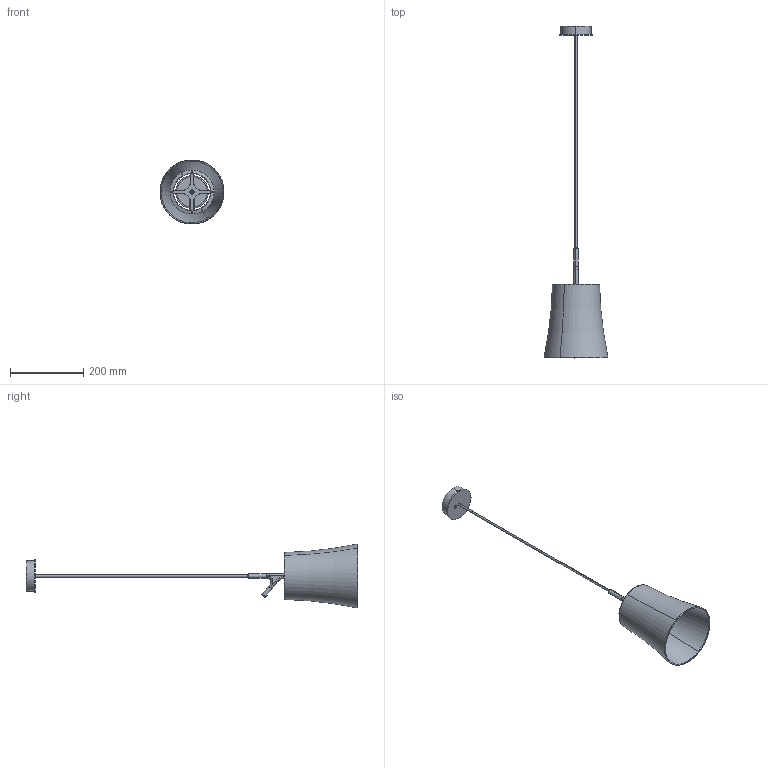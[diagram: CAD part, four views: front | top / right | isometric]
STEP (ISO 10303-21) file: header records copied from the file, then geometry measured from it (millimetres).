
FILE_DESCRIPTION (( 'STEP AP214' ), '1' );
FILE_NAME ('221_PICCOLA_S_PL_3D.STEP', '2021-05-04T07:56:33', ( '' ), ( '' ), 'SwSTEP 2.0', 'SolidWorks 2021', '' );
FILE_SCHEMA (( 'AUTOMOTIVE_DESIGN' ));
Length unit declared in the file: millimetre
Products named in the file (1): 221_PICCOLA_S_PL_3D
Bounding box: 174.37 x 904.84 x 174.08 mm (x, y, z)
Volume: 454273.1 mm3; surface area: 237226.7 mm2
Topology: 6 solids, 6 shells, 147 faces, 347 edges, 213 vertices
Faces by surface type: cylinder 50, plane 47, cone 24, torus 18, bspline 8
Entity records: 7592 total; most frequent: CARTESIAN_POINT 2505, DIRECTION 732, ORIENTED_EDGE 688, EDGE_CURVE 344, AXIS2_PLACEMENT_3D 290, VERTEX_POINT 213, EDGE_LOOP 161, UNCERTAINTY_MEASURE_WITH_UNIT 155
